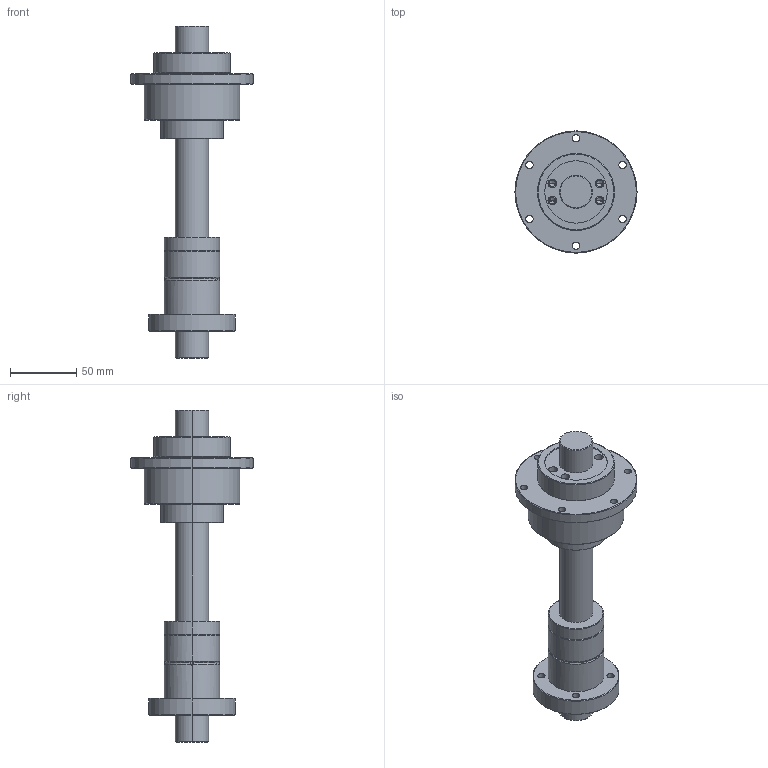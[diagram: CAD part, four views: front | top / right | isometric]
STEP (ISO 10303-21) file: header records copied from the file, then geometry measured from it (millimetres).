
FILE_DESCRIPTION (( 'STEP AP203' ), '1' );
FILE_NAME ('RBLY2525.STEP', '2026-05-29T02:05:45', ( '' ), ( '' ), 'SwSTEP 2.0', 'SolidWorks 2024', '' );
FILE_SCHEMA (( 'CONFIG_CONTROL_DESIGN' ));
Length unit declared in the file: millimetre
Products named in the file (4): SC25; RBLY2525; SLF25; RFBY2525
Assembly tree (3 placements, depth 2):
  RBLY2525
    SC25
    RFBY2525
    SLF25
Bounding box: 92 x 92 x 250 mm (x, y, z)
Volume: 401067 mm3; surface area: 85495.4 mm2
Topology: 5 solids, 5 shells, 165 faces, 406 edges, 254 vertices
Faces by surface type: cylinder 90, plane 33, cone 28, torus 14
Entity records: 5528 total; most frequent: CARTESIAN_POINT 1051, DIRECTION 934, ORIENTED_EDGE 796, EDGE_CURVE 398, AXIS2_PLACEMENT_3D 393, VERTEX_POINT 254, CIRCLE 222, EDGE_LOOP 208
